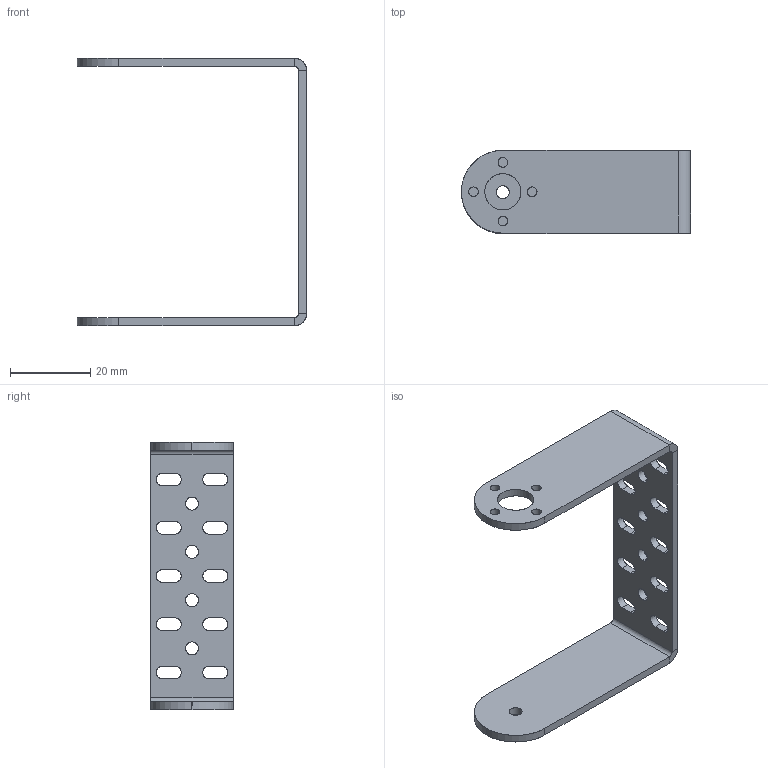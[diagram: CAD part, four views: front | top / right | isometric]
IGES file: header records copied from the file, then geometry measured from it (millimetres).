
Start section: SolidWorks IGES file using analytic representation for surfaces
Global section: file name: C:\Users\tahsi\Desktop\SMD\3D tasarýmlar\Building Set\General Tilt Mount\General Tilt Mount.IGS; native system: SolidWorks 2023; preprocessor: SolidWorks 2023; author: tahsi; date: 240613.131236; units: millimetre
Bounding box: 57 x 20.6 x 66.5 mm (x, y, z)
Surface area: 7706.9 mm2 (no closed solid volume)
Topology: 0 solids, 0 shells, 84 faces, 1772 edges, 1772 vertices
Faces by surface type: revolution 48, bspline 36
